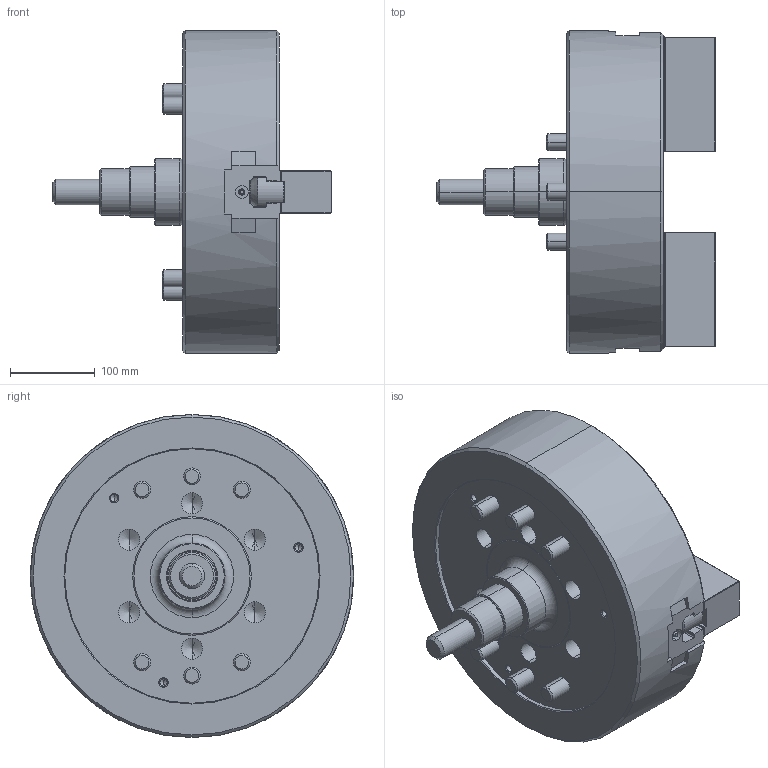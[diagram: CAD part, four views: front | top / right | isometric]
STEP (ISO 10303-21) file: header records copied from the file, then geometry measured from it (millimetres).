
FILE_DESCRIPTION (( 'STEP AP214' ), '1' );
FILE_NAME ('NT15_OV.STEP', '2019-12-19T06:46:27', ( '' ), ( '' ), 'SwSTEP 2.0', 'SolidWorks 2017', '' );
FILE_SCHEMA (( 'AUTOMOTIVE_DESIGN' ));
Length unit declared in the file: millimetre
Products named in the file (5): 結合; 0030120055; 61P418536_俿僫僢僩; 61P801010_ソフトジョー; NT15_OV
Assembly tree (11 placements, depth 2):
  NT15_OV
    61P801010_ソフトジョー  x2
    61P418536_俿僫僢僩  x4
    0030120055  x4
    結合
Bounding box: 328.2 x 381 x 381 mm (x, y, z)
Volume: 13467280.3 mm3; surface area: 627262.2 mm2
Topology: 11 solids, 11 shells, 2815 faces, 7924 edges, 5152 vertices
Faces by surface type: plane 2392, cylinder 192, cone 187, torus 44
Entity records: 67061 total; most frequent: CARTESIAN_POINT 13021, ORIENTED_EDGE 11640, DIRECTION 10411, EDGE_CURVE 5820, VECTOR 5133, LINE 5133, VERTEX_POINT 3801, AXIS2_PLACEMENT_3D 2639
